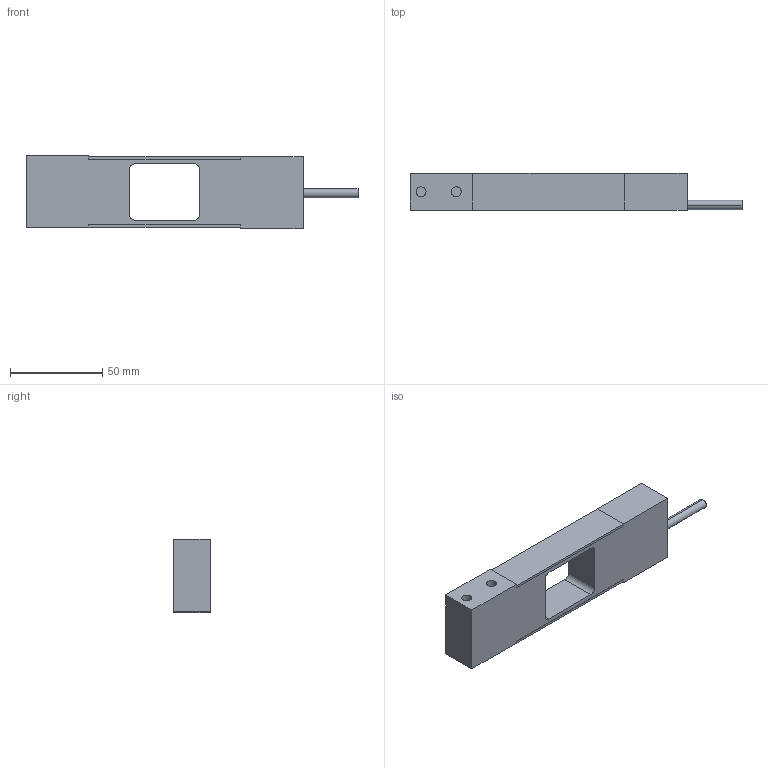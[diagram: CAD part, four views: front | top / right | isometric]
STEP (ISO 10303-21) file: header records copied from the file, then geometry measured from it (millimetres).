
FILE_DESCRIPTION (( 'STEP AP203' ), '1' );
FILE_NAME ('Load_Sensor_HiSPA42_5kg-30kg.STEP', '2014-10-09T15:55:43', ( '' ), ( '' ), 'SwSTEP 2.0', 'SolidWorks 2013', '' );
FILE_SCHEMA (( 'CONFIG_CONTROL_DESIGN' ));
Length unit declared in the file: millimetre
Products named in the file (1): Load_Sensor_HiSPA42_5kg-30kg
Bounding box: 179.71 x 20.23 x 40 mm (x, y, z)
Volume: 91707.8 mm3; surface area: 20851.1 mm2
Topology: 1 solids, 1 shells, 51 faces, 128 edges, 84 vertices
Faces by surface type: plane 35, cylinder 16
Entity records: 1603 total; most frequent: CARTESIAN_POINT 264, DIRECTION 264, ORIENTED_EDGE 256, EDGE_CURVE 128, LINE 96, VECTOR 96, AXIS2_PLACEMENT_3D 84, VERTEX_POINT 84
